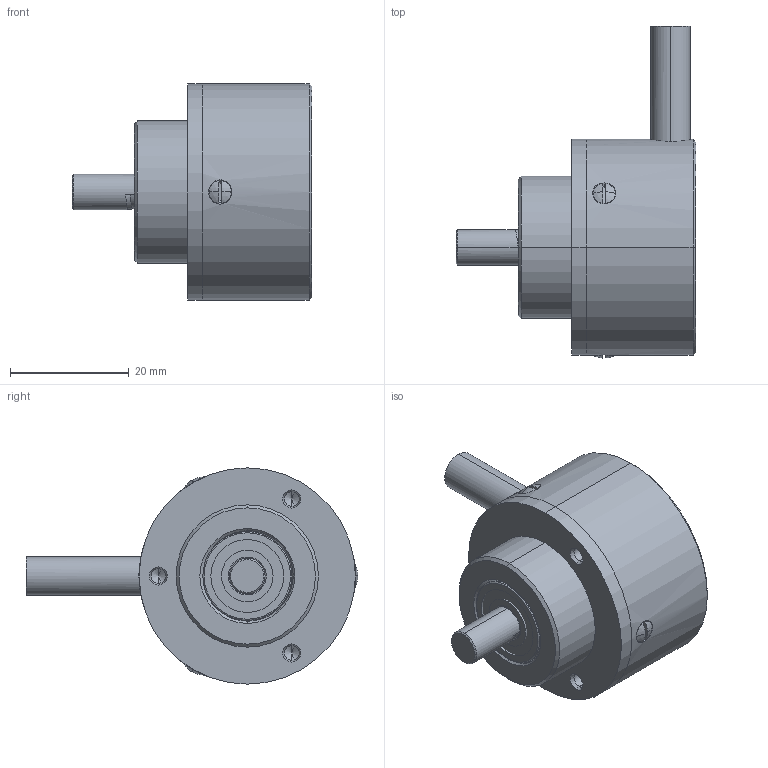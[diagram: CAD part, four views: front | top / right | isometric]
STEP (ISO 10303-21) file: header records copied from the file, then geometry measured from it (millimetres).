
FILE_DESCRIPTION (( 'STEP AP214' ), '1' );
FILE_NAME ('ﾋﾈﾐ-ﾌﾈ137ﾃ.STEP', '2017-05-23T08:33:18', ( '' ), ( '' ), 'SwSTEP 2.0', 'SolidWorks 2013', '' );
FILE_SCHEMA (( 'AUTOMOTIVE_DESIGN' ));
Length unit declared in the file: millimetre
Products named in the file (1): ﾋﾈﾐ-ﾌﾈ137ﾃ
Bounding box: 40.5 x 56.03 x 36.5 mm (x, y, z)
Volume: 17054.4 mm3; surface area: 15536.1 mm2
Topology: 15 solids, 15 shells, 832 faces, 2366 edges, 1512 vertices
Faces by surface type: cylinder 216, cone 216, sphere 204, torus 98, plane 71, bspline 27
Entity records: 50028 total; most frequent: CARTESIAN_POINT 19758, ORIENTED_EDGE 4692, DIRECTION 4226, EDGE_CURVE 2346, AXIS2_PLACEMENT_3D 1869, VERTEX_POINT 1512, CIRCLE 1063, EDGE_LOOP 920
